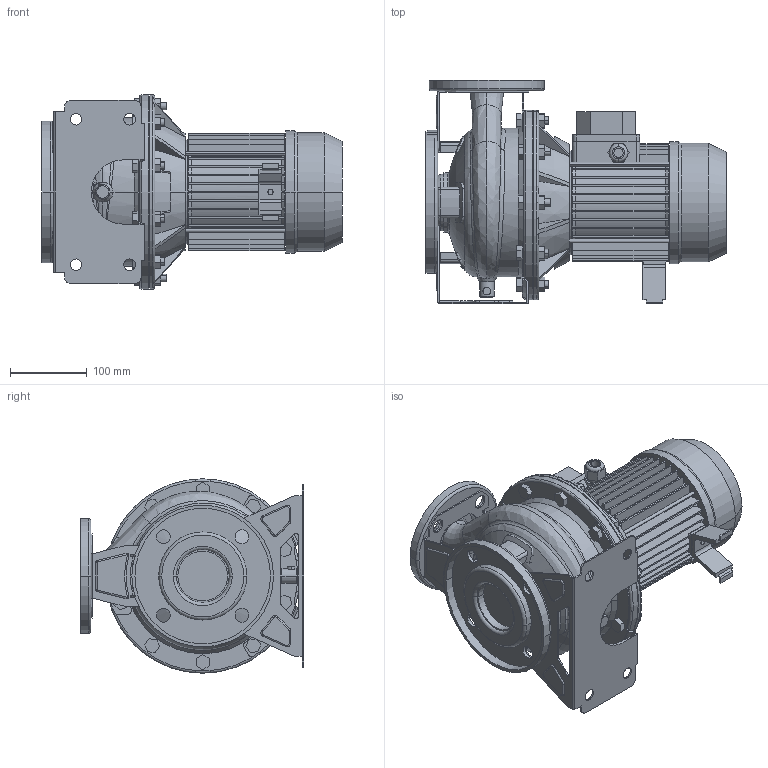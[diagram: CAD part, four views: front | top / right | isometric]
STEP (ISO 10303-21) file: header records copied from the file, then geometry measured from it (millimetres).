
FILE_DESCRIPTION((''),'2;1');
FILE_NAME('3M4_40-160_0_55_ASM','2016-09-16T',('rosa'),('"Ebara Pumps Europe +39.444.706811"'),'PRO/ENGINEER BY PARAMETRIC TECHNOLOGY CORPORATION, 2012130','PRO/ENGINEER BY PARAMETRIC TECHNOLOGY CORPORATION, 2012130','');
FILE_SCHEMA(('AUTOMOTIVE_DESIGN { 1 0 10303 214 1 1 1 1 }'));
Length unit declared in the file: millimetre
Products named in the file (12): CORPO_40-160_AF0; ASP_40-160; FLANGIA_DIN_65; MAND_40-160; FLANGIA_DIN_40; BASE_3M_40-160; CORPO_SALDATO_40-160_ASM; SUPPORTO_3M_190_80; MEC_80; SOSTEGNO_72004; 72015; 3M4_40-160_0_55_ASM
Assembly tree (11 placements, depth 3):
  3M4_40-160_0_55_ASM
    CORPO_SALDATO_40-160_ASM
      CORPO_40-160_AF0
      ASP_40-160
      FLANGIA_DIN_65
      MAND_40-160
      FLANGIA_DIN_40
      BASE_3M_40-160
    SUPPORTO_3M_190_80
    MEC_80
    SOSTEGNO_72004
    72015
Bounding box: 393 x 292 x 254 mm (x, y, z)
Volume: 7267779.2 mm3; surface area: 949630.1 mm2
Topology: 13 solids, 13 shells, 1137 faces, 2868 edges, 1819 vertices
Faces by surface type: plane 594, cylinder 331, cone 92, torus 68, bspline 46, sphere 6
Entity records: 48678 total; most frequent: CARTESIAN_POINT 10665, DIRECTION 5874, ORIENTED_EDGE 5736, EDGE_CURVE 2868, PRESENTATION_STYLE_ASSIGNMENT 2796, STYLED_ITEM 2796, CURVE_STYLE 2784, AXIS2_PLACEMENT_3D 2157
